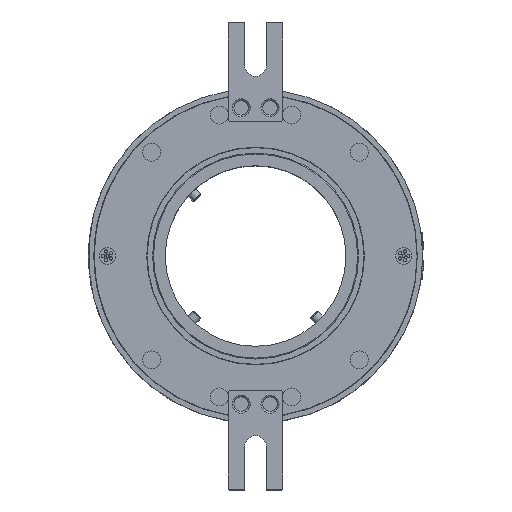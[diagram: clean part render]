
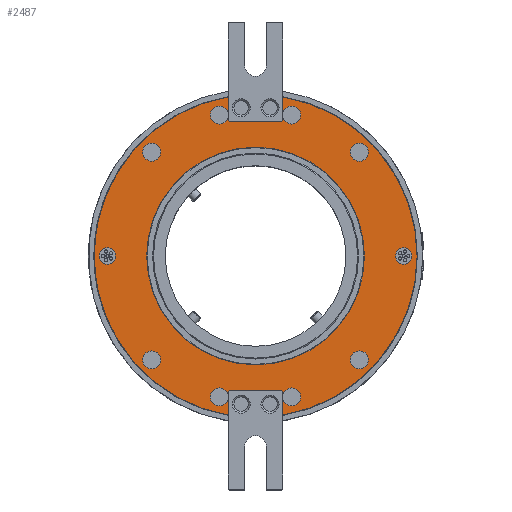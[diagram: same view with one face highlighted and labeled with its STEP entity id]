
A CAD part, top view. The second image highlights one B-rep face of the part: STEP entity #2487.
In plain terms, the highlighted planar face has unit normal (0, 0, 1).
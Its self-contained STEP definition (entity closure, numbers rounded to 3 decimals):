
#189=FACE_BOUND('',#4387,.T.);
#190=FACE_BOUND('',#4388,.T.);
#191=FACE_BOUND('',#4389,.T.);
#192=FACE_BOUND('',#4390,.T.);
#193=FACE_BOUND('',#4391,.T.);
#194=FACE_BOUND('',#4392,.T.);
#195=FACE_BOUND('',#4393,.T.);
#196=FACE_BOUND('',#4394,.T.);
#598=CIRCLE('',#14458,4.5);
#599=CIRCLE('',#14460,5.);
#600=CIRCLE('',#14462,5.);
#601=CIRCLE('',#14467,5.);
#602=CIRCLE('',#14469,89.4);
#603=CIRCLE('',#14470,89.4);
#604=CIRCLE('',#14472,5.);
#605=CIRCLE('',#14477,5.);
#606=CIRCLE('',#14479,4.5);
#607=CIRCLE('',#14481,5.);
#608=CIRCLE('',#14483,5.);
#609=CIRCLE('',#14485,5.);
#614=CIRCLE('',#14510,60.25);
#1173=LINE('',#25854,#1709);
#1176=LINE('',#25860,#1712);
#1178=LINE('',#25864,#1714);
#1180=LINE('',#25877,#1716);
#1183=LINE('',#25883,#1719);
#1185=LINE('',#25887,#1721);
#1187=LINE('',#25906,#1723);
#1188=LINE('',#25907,#1724);
#1207=LINE('',#25948,#1743);
#1208=LINE('',#25949,#1744);
#1209=LINE('',#25951,#1745);
#1210=LINE('',#25952,#1746);
#1229=LINE('',#25990,#1765);
#1230=LINE('',#25991,#1766);
#1709=VECTOR('',#16009,1.);
#1712=VECTOR('',#16014,1.);
#1714=VECTOR('',#16018,1.);
#1716=VECTOR('',#16036,1.);
#1719=VECTOR('',#16041,1.);
#1721=VECTOR('',#16045,1.);
#1723=VECTOR('',#16069,1.);
#1724=VECTOR('',#16070,1.);
#1743=VECTOR('',#16113,1.);
#1744=VECTOR('',#16114,1.);
#1745=VECTOR('',#16117,1.);
#1746=VECTOR('',#16118,1.);
#1765=VECTOR('',#16155,1.);
#1766=VECTOR('',#16156,1.);
#2487=ADVANCED_FACE('',(#189,#190,#191,#192,#193,#194,#195,#196),#3024,
 .T.);
#3024=PLANE('',#14511);
#4387=EDGE_LOOP('',(#6862));
#4388=EDGE_LOOP('',(#6863));
#4389=EDGE_LOOP('',(#6864));
#4390=EDGE_LOOP('',(#6865));
#4391=EDGE_LOOP('',(#6866));
#4392=EDGE_LOOP('',(#6867));
#4393=EDGE_LOOP('',(#6868,#6869,#6870,#6871,#6872,#6873,#6874,#6875,#6876,
#6877,#6878,#6879,#6880,#6881,#6882,#6883,#6884,#6885,#6886,#6887));
#4394=EDGE_LOOP('',(#6888));
#6862=ORIENTED_EDGE('',*,*,#11664,.T.);
#6863=ORIENTED_EDGE('',*,*,#11663,.T.);
#6864=ORIENTED_EDGE('',*,*,#11662,.T.);
#6865=ORIENTED_EDGE('',*,*,#11661,.T.);
#6866=ORIENTED_EDGE('',*,*,#11660,.T.);
#6867=ORIENTED_EDGE('',*,*,#11713,.T.);
#6868=ORIENTED_EDGE('',*,*,#11665,.F.);
#6869=ORIENTED_EDGE('',*,*,#11658,.T.);
#6870=ORIENTED_EDGE('',*,*,#11656,.F.);
#6871=ORIENTED_EDGE('',*,*,#11653,.T.);
#6872=ORIENTED_EDGE('',*,*,#11689,.F.);
#6873=ORIENTED_EDGE('',*,*,#11652,.T.);
#6874=ORIENTED_EDGE('',*,*,#11688,.F.);
#6875=ORIENTED_EDGE('',*,*,#11650,.F.);
#6876=ORIENTED_EDGE('',*,*,#11691,.F.);
#6877=ORIENTED_EDGE('',*,*,#11649,.T.);
#6878=ORIENTED_EDGE('',*,*,#11690,.F.);
#6879=ORIENTED_EDGE('',*,*,#11647,.T.);
#6880=ORIENTED_EDGE('',*,*,#11645,.F.);
#6881=ORIENTED_EDGE('',*,*,#11642,.T.);
#6882=ORIENTED_EDGE('',*,*,#11712,.F.);
#6883=ORIENTED_EDGE('',*,*,#11641,.T.);
#6884=ORIENTED_EDGE('',*,*,#11711,.F.);
#6885=ORIENTED_EDGE('',*,*,#11651,.F.);
#6886=ORIENTED_EDGE('',*,*,#11666,.F.);
#6887=ORIENTED_EDGE('',*,*,#11640,.T.);
#6888=ORIENTED_EDGE('',*,*,#11639,.T.);
#9816=VERTEX_POINT('',#25778);
#9817=VERTEX_POINT('',#25779);
#9832=VERTEX_POINT('',#25812);
#9833=VERTEX_POINT('',#25813);
#9848=VERTEX_POINT('',#25846);
#9849=VERTEX_POINT('',#25849);
#9850=VERTEX_POINT('',#25852);
#9851=VERTEX_POINT('',#25855);
#9852=VERTEX_POINT('',#25856);
#9853=VERTEX_POINT('',#25861);
#9854=VERTEX_POINT('',#25865);
#9855=VERTEX_POINT('',#25869);
#9856=VERTEX_POINT('',#25875);
#9857=VERTEX_POINT('',#25878);
#9858=VERTEX_POINT('',#25879);
#9859=VERTEX_POINT('',#25884);
#9860=VERTEX_POINT('',#25888);
#9861=VERTEX_POINT('',#25892);
#9862=VERTEX_POINT('',#25895);
#9863=VERTEX_POINT('',#25898);
#9864=VERTEX_POINT('',#25901);
#9865=VERTEX_POINT('',#25904);
#9886=VERTEX_POINT('',#25994);
#11639=EDGE_CURVE('',#9848,#9848,#598,.T.);
#11640=EDGE_CURVE('',#9849,#9849,#599,.T.);
#11641=EDGE_CURVE('',#9850,#9850,#600,.T.);
#11642=EDGE_CURVE('',#9851,#9852,#1173,.T.);
#11645=EDGE_CURVE('',#9851,#9853,#1176,.T.);
#11647=EDGE_CURVE('',#9854,#9853,#1178,.T.);
#11649=EDGE_CURVE('',#9855,#9855,#601,.T.);
#11650=EDGE_CURVE('',#9833,#9816,#602,.T.);
#11651=EDGE_CURVE('',#9817,#9832,#603,.T.);
#11652=EDGE_CURVE('',#9856,#9856,#604,.T.);
#11653=EDGE_CURVE('',#9857,#9858,#1180,.T.);
#11656=EDGE_CURVE('',#9857,#9859,#1183,.T.);
#11658=EDGE_CURVE('',#9860,#9859,#1185,.T.);
#11660=EDGE_CURVE('',#9861,#9861,#605,.T.);
#11661=EDGE_CURVE('',#9862,#9862,#606,.T.);
#11662=EDGE_CURVE('',#9863,#9863,#607,.T.);
#11663=EDGE_CURVE('',#9864,#9864,#608,.T.);
#11664=EDGE_CURVE('',#9865,#9865,#609,.T.);
#11665=EDGE_CURVE('',#9860,#9849,#1187,.T.);
#11666=EDGE_CURVE('',#9849,#9817,#1188,.T.);
#11688=EDGE_CURVE('',#9816,#9856,#1207,.T.);
#11689=EDGE_CURVE('',#9856,#9858,#1208,.T.);
#11690=EDGE_CURVE('',#9854,#9855,#1209,.T.);
#11691=EDGE_CURVE('',#9855,#9833,#1210,.T.);
#11711=EDGE_CURVE('',#9832,#9850,#1229,.T.);
#11712=EDGE_CURVE('',#9850,#9852,#1230,.T.);
#11713=EDGE_CURVE('',#9886,#9886,#614,.T.);
#14458=AXIS2_PLACEMENT_3D('',#25845,#15997,#15998);
#14460=AXIS2_PLACEMENT_3D('',#25848,#16001,#16002);
#14462=AXIS2_PLACEMENT_3D('',#25851,#16005,#16006);
#14467=AXIS2_PLACEMENT_3D('',#25868,#16022,#16023);
#14469=AXIS2_PLACEMENT_3D('',#25871,#16026,#16027);
#14470=AXIS2_PLACEMENT_3D('',#25872,#16028,#16029);
#14472=AXIS2_PLACEMENT_3D('',#25874,#16032,#16033);
#14477=AXIS2_PLACEMENT_3D('',#25891,#16049,#16050);
#14479=AXIS2_PLACEMENT_3D('',#25894,#16053,#16054);
#14481=AXIS2_PLACEMENT_3D('',#25897,#16057,#16058);
#14483=AXIS2_PLACEMENT_3D('',#25900,#16061,#16062);
#14485=AXIS2_PLACEMENT_3D('',#25903,#16065,#16066);
#14510=AXIS2_PLACEMENT_3D('',#25993,#16159,#16160);
#14511=AXIS2_PLACEMENT_3D('',#25995,#16161,#16162);
#15997=DIRECTION('',(0.,0.,-1.));
#15998=DIRECTION('',(1.,0.,0.));
#16001=DIRECTION('',(0.,0.,-1.));
#16002=DIRECTION('',(-1.,0.,0.));
#16005=DIRECTION('',(0.,0.,-1.));
#16006=DIRECTION('',(-1.,0.,0.));
#16009=DIRECTION('',(-0.707,0.707,0.));
#16014=DIRECTION('',(1.,0.,0.));
#16018=DIRECTION('',(-0.707,-0.707,0.));
#16022=DIRECTION('',(0.,0.,-1.));
#16023=DIRECTION('',(-1.,0.,0.));
#16026=DIRECTION('',(0.,0.,-1.));
#16027=DIRECTION('',(1.,0.,0.));
#16028=DIRECTION('',(0.,0.,-1.));
#16029=DIRECTION('',(1.,0.,0.));
#16032=DIRECTION('',(0.,0.,-1.));
#16033=DIRECTION('',(-1.,0.,0.));
#16036=DIRECTION('',(0.707,-0.707,0.));
#16041=DIRECTION('',(-1.,0.,0.));
#16045=DIRECTION('',(0.707,0.707,0.));
#16049=DIRECTION('',(0.,0.,-1.));
#16050=DIRECTION('',(-1.,0.,0.));
#16053=DIRECTION('',(0.,0.,-1.));
#16054=DIRECTION('',(-1.,0.,0.));
#16057=DIRECTION('',(0.,0.,-1.));
#16058=DIRECTION('',(-1.,0.,0.));
#16061=DIRECTION('',(0.,0.,-1.));
#16062=DIRECTION('',(-1.,0.,0.));
#16065=DIRECTION('',(0.,0.,-1.));
#16066=DIRECTION('',(-1.,0.,0.));
#16069=DIRECTION('',(0.,-1.,0.));
#16070=DIRECTION('',(0.,-1.,0.));
#16113=DIRECTION('',(0.,1.,0.));
#16114=DIRECTION('',(0.,1.,0.));
#16117=DIRECTION('',(0.,1.,0.));
#16118=DIRECTION('',(0.,1.,0.));
#16155=DIRECTION('',(0.,-1.,0.));
#16156=DIRECTION('',(0.,-1.,0.));
#16159=DIRECTION('',(0.,0.,-1.));
#16160=DIRECTION('',(1.,0.,0.));
#16161=DIRECTION('',(0.,0.,1.));
#16162=DIRECTION('',(1.,0.,0.));
#25778=CARTESIAN_POINT('',(15.,-88.133,101.5));
#25779=CARTESIAN_POINT('',(-15.,-88.133,101.5));
#25812=CARTESIAN_POINT('',(-15.,88.133,101.5));
#25813=CARTESIAN_POINT('',(15.,88.133,101.5));
#25845=CARTESIAN_POINT('',(-82.,0.,101.5));
#25846=CARTESIAN_POINT('',(-77.5,0.,101.5));
#25848=CARTESIAN_POINT('',(-20.,-78.,101.5));
#25849=CARTESIAN_POINT('',(-15.,-78.,101.5));
#25851=CARTESIAN_POINT('',(-20.,78.,101.5));
#25852=CARTESIAN_POINT('',(-15.,78.,101.5));
#25854=CARTESIAN_POINT('',(-21.,81.,101.5));
#25855=CARTESIAN_POINT('',(-14.5,74.5,101.5));
#25856=CARTESIAN_POINT('',(-15.,75.,101.5));
#25860=CARTESIAN_POINT('',(0.,74.5,101.5));
#25861=CARTESIAN_POINT('',(14.5,74.5,101.5));
#25864=CARTESIAN_POINT('',(21.,81.,101.5));
#25865=CARTESIAN_POINT('',(15.,75.,101.5));
#25868=CARTESIAN_POINT('',(20.,78.,101.5));
#25869=CARTESIAN_POINT('',(15.,78.,101.5));
#25871=CARTESIAN_POINT('',(0.,0.,101.5));
#25872=CARTESIAN_POINT('',(0.,0.,101.5));
#25874=CARTESIAN_POINT('',(20.,-78.,101.5));
#25875=CARTESIAN_POINT('',(15.,-78.,101.5));
#25877=CARTESIAN_POINT('',(21.,-81.,101.5));
#25878=CARTESIAN_POINT('',(14.5,-74.5,101.5));
#25879=CARTESIAN_POINT('',(15.,-75.,101.5));
#25883=CARTESIAN_POINT('',(0.,-74.5,101.5));
#25884=CARTESIAN_POINT('',(-14.5,-74.5,101.5));
#25887=CARTESIAN_POINT('',(-21.,-81.,101.5));
#25888=CARTESIAN_POINT('',(-15.,-75.,101.5));
#25891=CARTESIAN_POINT('',(57.5,57.5,101.5));
#25892=CARTESIAN_POINT('',(52.5,57.5,101.5));
#25894=CARTESIAN_POINT('',(82.,0.,101.5));
#25895=CARTESIAN_POINT('',(77.5,0.,101.5));
#25897=CARTESIAN_POINT('',(57.5,-57.5,101.5));
#25898=CARTESIAN_POINT('',(52.5,-57.5,101.5));
#25900=CARTESIAN_POINT('',(-57.5,-57.5,101.5));
#25901=CARTESIAN_POINT('',(-62.5,-57.5,101.5));
#25903=CARTESIAN_POINT('',(-57.5,57.5,101.5));
#25904=CARTESIAN_POINT('',(-62.5,57.5,101.5));
#25906=CARTESIAN_POINT('',(-15.,-102.,101.5));
#25907=CARTESIAN_POINT('',(-15.,-102.,101.5));
#25948=CARTESIAN_POINT('',(15.,-102.,101.5));
#25949=CARTESIAN_POINT('',(15.,-102.,101.5));
#25951=CARTESIAN_POINT('',(15.,102.,101.5));
#25952=CARTESIAN_POINT('',(15.,102.,101.5));
#25990=CARTESIAN_POINT('',(-15.,102.,101.5));
#25991=CARTESIAN_POINT('',(-15.,102.,101.5));
#25993=CARTESIAN_POINT('',(0.,0.,101.5));
#25994=CARTESIAN_POINT('',(60.25,0.,101.5));
#25995=CARTESIAN_POINT('',(0.,0.,101.5));
